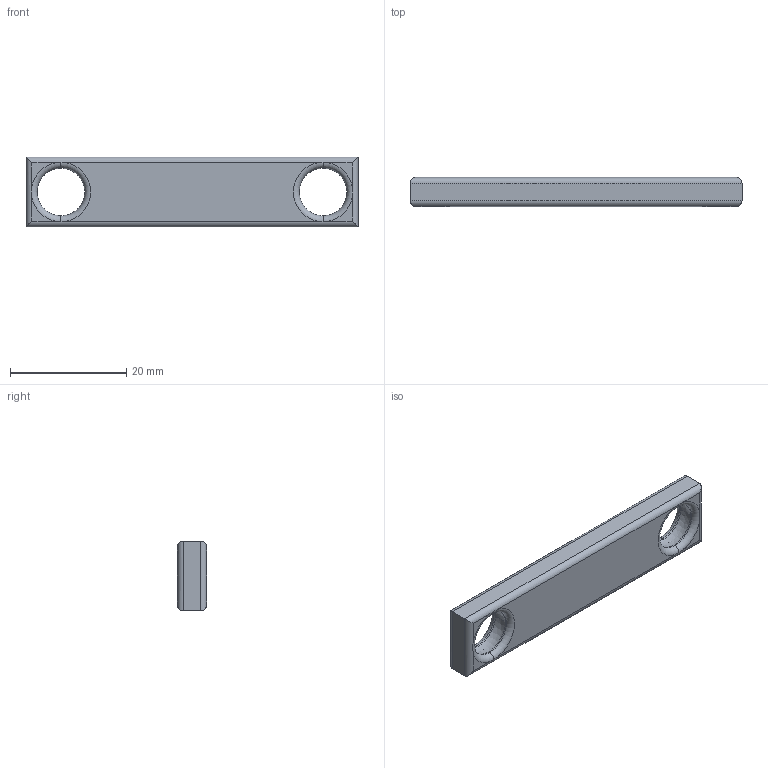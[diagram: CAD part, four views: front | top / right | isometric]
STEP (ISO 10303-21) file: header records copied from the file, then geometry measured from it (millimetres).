
FILE_DESCRIPTION (( 'STEP AP203' ), '1' );
FILE_NAME ('Steering Arm.STEP', '2026-01-17T21:10:55', ( '' ), ( '' ), 'SwSTEP 2.0', 'SolidWorks 2026', '' );
FILE_SCHEMA (( 'CONFIG_CONTROL_DESIGN' ));
Length unit declared in the file: millimetre
Products named in the file (1): Steering Arm
Bounding box: 57 x 5 x 12 mm (x, y, z)
Volume: 2793.6 mm3; surface area: 1950.2 mm2
Topology: 1 solids, 1 shells, 42 faces, 126 edges, 78 vertices
Faces by surface type: torus 16, plane 14, cylinder 8, sphere 4
Entity records: 1459 total; most frequent: CARTESIAN_POINT 323, ORIENTED_EDGE 232, DIRECTION 230, EDGE_CURVE 116, AXIS2_PLACEMENT_3D 99, VERTEX_POINT 72, CIRCLE 56, FACE_OUTER_BOUND 42
